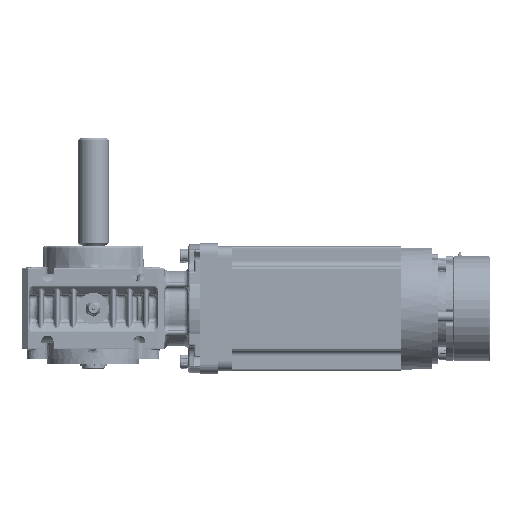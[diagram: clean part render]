
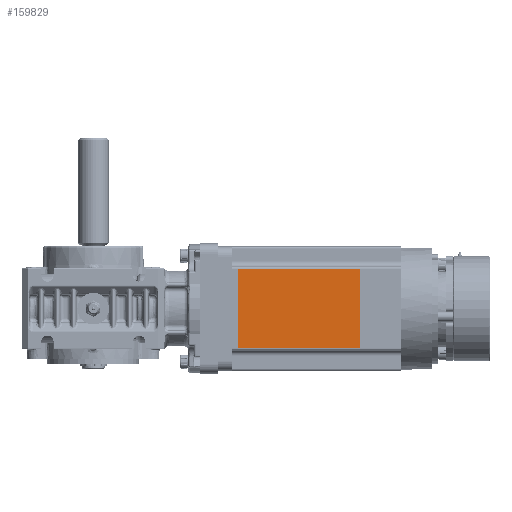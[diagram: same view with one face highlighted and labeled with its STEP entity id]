
A CAD part, front view. The second image highlights one B-rep face of the part: STEP entity #159829.
In plain terms, the highlighted planar face has unit normal (0, -1, 0).
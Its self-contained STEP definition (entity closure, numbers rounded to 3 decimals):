
#7475 = VECTOR ( 'NONE', #276802, 1000. ) ;
#15052 = EDGE_LOOP ( 'NONE', ( #336754, #399492, #310623, #165675 ) ) ;
#25906 = AXIS2_PLACEMENT_3D ( 'NONE', #27451, #149105, #177643 ) ;
#27451 = CARTESIAN_POINT ( 'NONE',  ( 45.122, -16.123, 61.435 ) ) ;
#33237 = VERTEX_POINT ( 'NONE', #216913 ) ;
#46875 = EDGE_CURVE ( 'NONE', #33237, #68174, #189669, .T. ) ;
#55932 = EDGE_CURVE ( 'NONE', #215563, #68174, #77142, .T. ) ;
#68174 = VERTEX_POINT ( 'NONE', #341945 ) ;
#73145 = DIRECTION ( 'NONE',  ( -1., 0., 0. ) ) ;
#75142 = CARTESIAN_POINT ( 'NONE',  ( 25.122, -16.123, 16.435 ) ) ;
#76532 = EDGE_CURVE ( 'NONE', #33237, #192696, #331257, .T. ) ;
#77142 = LINE ( 'NONE', #351106, #185099 ) ;
#102635 = PLANE ( 'NONE',  #25906 ) ;
#110650 = FACE_OUTER_BOUND ( 'NONE', #15052, .T. ) ;
#119179 = LINE ( 'NONE', #281114, #169130 ) ;
#149105 = DIRECTION ( 'NONE',  ( 0., -1., 0. ) ) ;
#159829 = ADVANCED_FACE ( 'NONE', ( #110650 ), #102635, .T. ) ;
#165675 = ORIENTED_EDGE ( 'NONE', *, *, #76532, .T. ) ;
#169130 = VECTOR ( 'NONE', #397044, 1000. ) ;
#177246 = CARTESIAN_POINT ( 'NONE',  ( 45.122, -16.123, 16.435 ) ) ;
#177643 = DIRECTION ( 'NONE',  ( 1., 0., 0. ) ) ;
#185099 = VECTOR ( 'NONE', #73145, 1000. ) ;
#189669 = LINE ( 'NONE', #372244, #7475 ) ;
#192696 = VERTEX_POINT ( 'NONE', #75142 ) ;
#209621 = DIRECTION ( 'NONE',  ( 1., 0., 0. ) ) ;
#215563 = VERTEX_POINT ( 'NONE', #280983 ) ;
#216913 = CARTESIAN_POINT ( 'NONE',  ( -34.878, -16.123, 16.435 ) ) ;
#234111 = EDGE_CURVE ( 'NONE', #215563, #192696, #119179, .T. ) ;
#276802 = DIRECTION ( 'NONE',  ( 0., 0., 1. ) ) ;
#280983 = CARTESIAN_POINT ( 'NONE',  ( 25.122, -16.123, 55.435 ) ) ;
#281114 = CARTESIAN_POINT ( 'NONE',  ( 25.122, -16.123, 61.435 ) ) ;
#310623 = ORIENTED_EDGE ( 'NONE', *, *, #46875, .F. ) ;
#331257 = LINE ( 'NONE', #177246, #335295 ) ;
#335295 = VECTOR ( 'NONE', #209621, 1000. ) ;
#336754 = ORIENTED_EDGE ( 'NONE', *, *, #234111, .F. ) ;
#341945 = CARTESIAN_POINT ( 'NONE',  ( -34.878, -16.123, 55.435 ) ) ;
#351106 = CARTESIAN_POINT ( 'NONE',  ( -37.878, -16.123, 55.435 ) ) ;
#372244 = CARTESIAN_POINT ( 'NONE',  ( -34.878, -16.123, 61.435 ) ) ;
#397044 = DIRECTION ( 'NONE',  ( 0., 0., -1. ) ) ;
#399492 = ORIENTED_EDGE ( 'NONE', *, *, #55932, .T. ) ;
